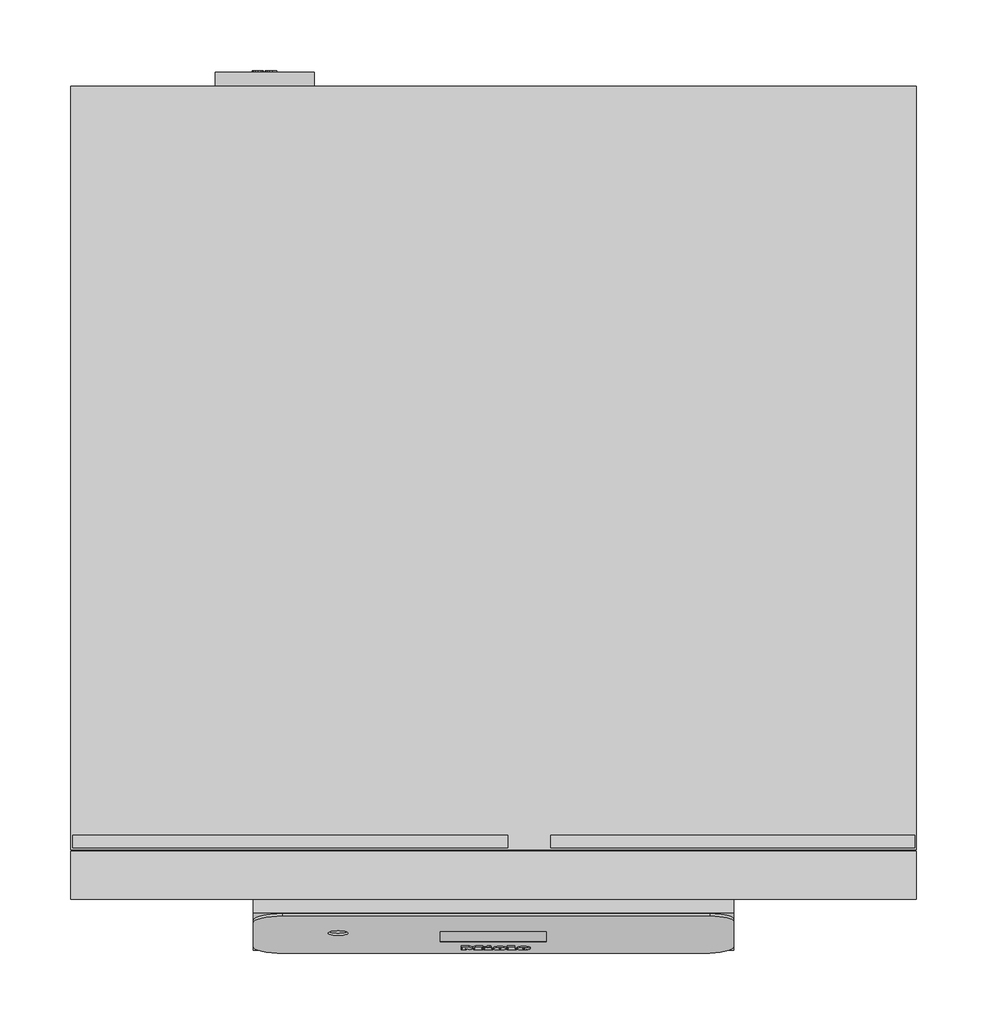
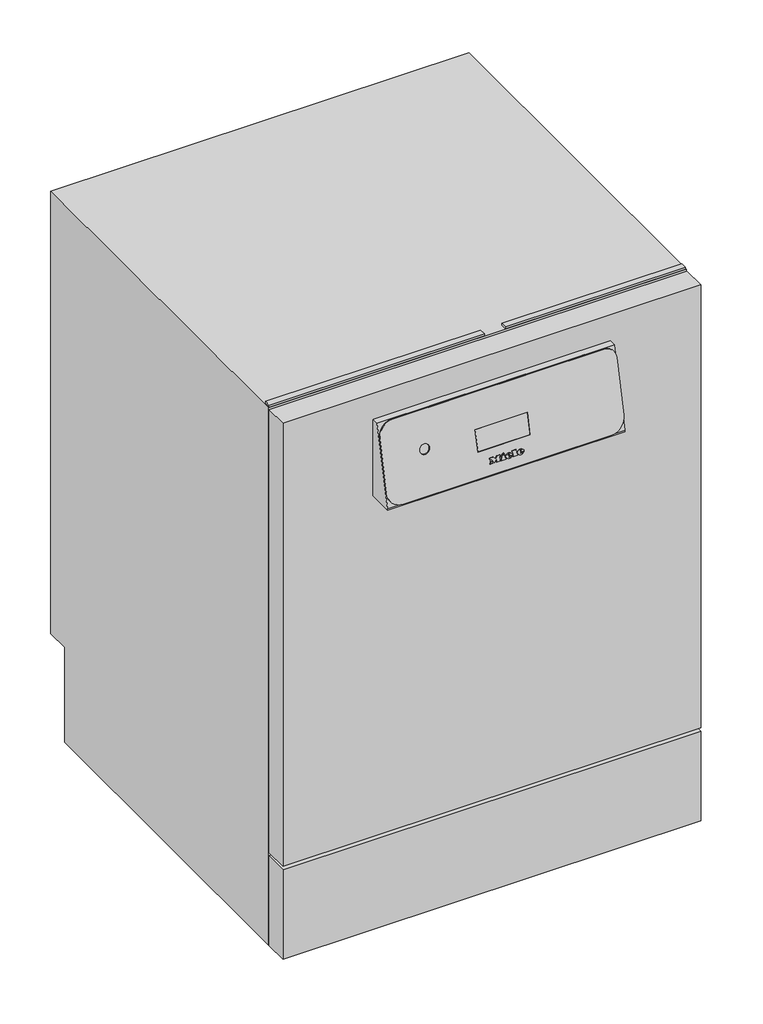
# Not in any storey: 1 proxy.
"""IFC4 building model written with IfcOpenShell, lengths in millimetres."""

from ifc_helpers import new_model, si_unit, origin, place, context, project, spatial, transform, mapped, element, save
from components import specialty_equipment_0366cfd7

model = new_model("IFC4")

# Units and contexts
model_context = context("Model", 3, world=origin())
ifc_project = project(units=[si_unit("LENGTHUNIT", "METRE", prefix="MILLI")], contexts=[model_context])

# Site, building
site = spatial("IfcSite", under=ifc_project)
building = spatial("IfcBuilding", under=site)

# Proxy
placement = place(None, origin())
specialty_equipment_shape = specialty_equipment_0366cfd7(model_context)
element("IfcBuildingElementProxy", 1, Name="12065670_NWE_PFD401UDOS_LW : 61040180_NWE_12065670_PFD401UDOS_LW", ObjectType="12065670_NWE_PFD401UDOS_LW : 61040180_NWE_12065670_PFD401UDOS_LW", at=placement, inside=building, context=model_context, shape_type="MappedRepresentation", body=[
    mapped(specialty_equipment_shape, transform((0.0, 0.0, 0.0), x_axis=(1.0, 0.0, 0.0), y_axis=(0.0, 1.0, 0.0), z_axis=(0.0, 0.0, 1.0))),
])

save(model, "model.ifc")
